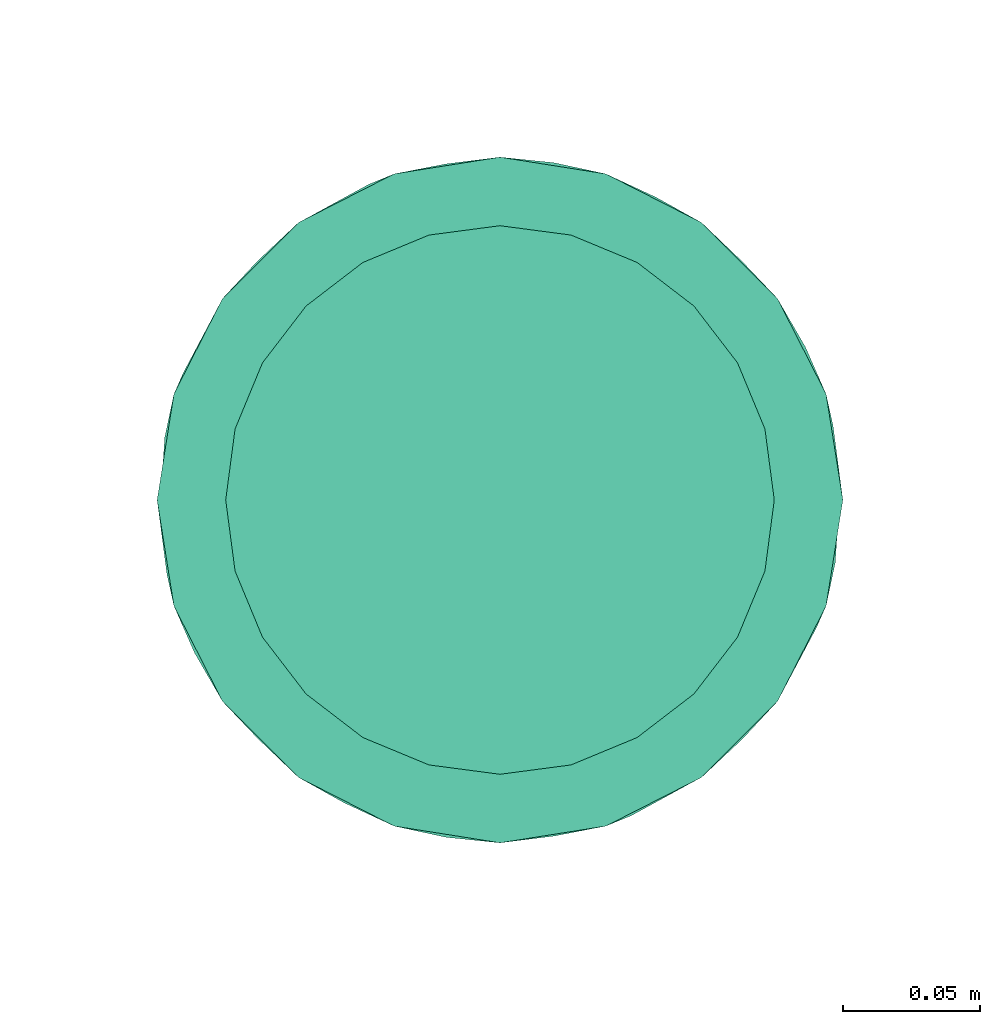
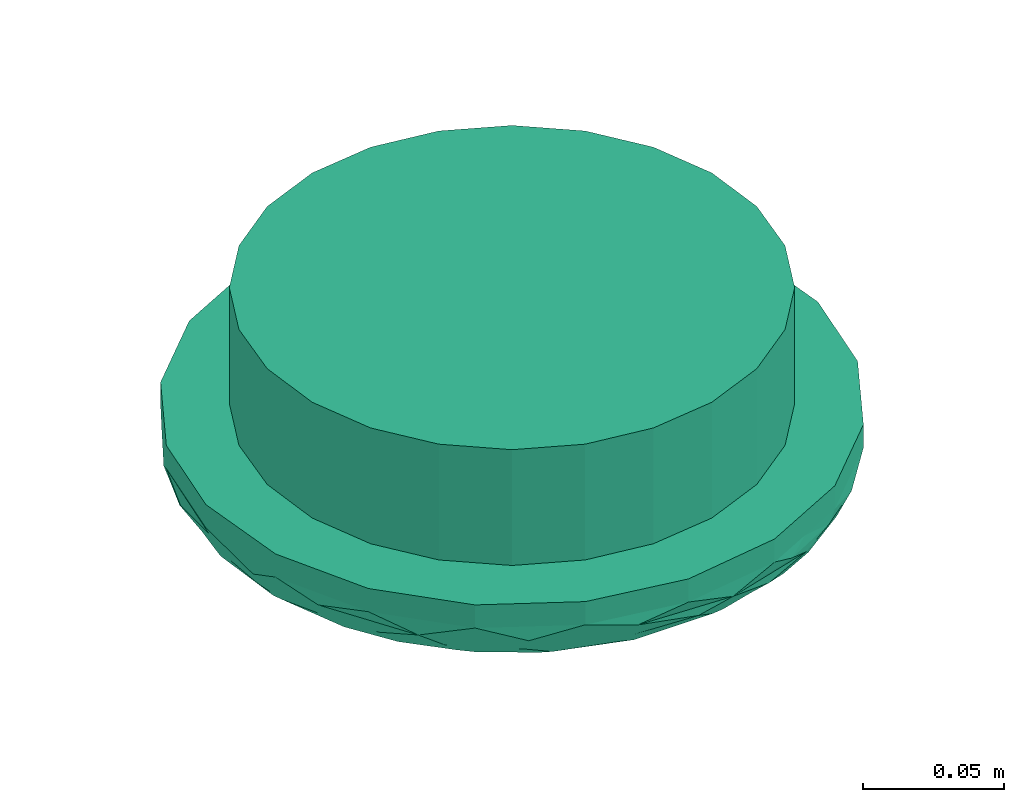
# One storey, part 10 of 11: 1 flow terminal.
"""IFC2X3 building model written with IfcOpenShell, lengths in millimetres."""

from ifc_helpers import new_model, entity, si_unit, converted_unit, derived_unit, direction, frame, origin, place, context, subcontext, project, spatial, faceted_brep, source, transform, mapped, type_object, type_shapes, element, save


model = new_model("IFC2X3")

# Units and contexts
model_context = context("Model", 3, precision=0.01, world=origin(), true_north=direction((6.12303176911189e-17, 1.0)))
body_context = subcontext(model_context, "Body", "Model", "MODEL_VIEW")
ifc_project = project(units=[si_unit("LENGTHUNIT", "METRE", prefix="MILLI"), si_unit("AREAUNIT", "SQUARE_METRE"), si_unit("VOLUMEUNIT", "CUBIC_METRE"), converted_unit("PLANEANGLEUNIT", "DEGREE", entity("IfcRatioMeasure", 0.0174532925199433), si_unit("PLANEANGLEUNIT", "RADIAN"), dimensions=[0, 0, 0, 0, 0, 0, 0]), si_unit("MASSUNIT", "GRAM", prefix="KILO"), si_unit("TIMEUNIT", "SECOND"), si_unit("FREQUENCYUNIT", "HERTZ"), si_unit("THERMODYNAMICTEMPERATUREUNIT", "KELVIN"), derived_unit("THERMALTRANSMITTANCEUNIT", [(si_unit("MASSUNIT", "GRAM", prefix="KILO"), 1), (si_unit("THERMODYNAMICTEMPERATUREUNIT", "KELVIN"), -1), (si_unit("TIMEUNIT", "SECOND"), -3)]), derived_unit("VOLUMETRICFLOWRATEUNIT", [(si_unit("LENGTHUNIT", "METRE"), 3), (si_unit("TIMEUNIT", "SECOND"), -1)]), si_unit("ELECTRICCURRENTUNIT", "AMPERE"), si_unit("ELECTRICVOLTAGEUNIT", "VOLT"), si_unit("POWERUNIT", "WATT")], contexts=[model_context])

# Site, building, storey
site_placement = place(None, origin())
site = spatial("IfcSite", under=ifc_project, at=site_placement, Name="Surface:5707", CompositionType="ELEMENT")
building_placement = place(site_placement, origin())
building = spatial("IfcBuilding", under=site, at=building_placement, CompositionType="ELEMENT")
storey_placement = place(building_placement, origin())
storey = spatial("IfcBuildingStorey", under=building, at=storey_placement, Name="00_begane grond", CompositionType="ELEMENT", Elevation=0.0)

# Flow terminal
air_terminal_type = type_object("IfcAirTerminalType", Name="afvoer_rozet_kanaaldiameter_200 : 57_AT_afv_rozet_FB:afvoer_rozet_kanaaldiameter_200", PredefinedType="NOTDEFINED")
shared_shape = source(origin(), body_context, "Body", "Brep", [
    faceted_brep([(125.881904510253, 3.40741737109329, 50.0), (150.0, 13.3974596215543, 50.0), (170.710678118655, 29.289321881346, 50.0), (186.602540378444, 50.0, 50.0), (196.592582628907, 74.1180954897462, 50.0), (200.0, 100.0, 50.0), (196.592582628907, 125.881904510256, 50.0), (186.602540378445, 150.0, 50.0), (170.710678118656, 170.710678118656, 50.0), (150.0, 186.602540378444, 50.0), (125.881904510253, 196.592582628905, 50.0), (100.0, 200.0, 50.0), (74.1180954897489, 196.592582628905, 50.0), (50.0, 186.602540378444, 50.0), (29.289321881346, 170.710678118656, 50.0), (13.3974596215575, 150.0, 50.0), (3.40741737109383, 125.881904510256, 50.0), (0.0, 100.0, 50.0), (3.40741737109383, 74.1180954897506, 50.0), (13.3974596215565, 50.0, 50.0), (29.289321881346, 29.289321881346, 50.0), (50.0, 13.3974596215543, 50.0), (74.1180954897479, 3.40741737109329, 50.0), (100.0, 0.0, 50.0)], [[[0, 1, 2, 3, 4, 5, 6, 7, 8, 9, 10, 11, 12, 13, 14, 15, 16, 17, 18, 19, 20, 21, 22, 23]]]),
    faceted_brep([(125.881904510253, 196.592582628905, 0.0), (150.0, 186.602540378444, 0.0), (170.710678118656, 170.710678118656, 0.0), (186.602540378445, 150.0, 0.0), (196.592582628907, 125.881904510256, 0.0), (200.0, 100.0, 0.0), (196.592582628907, 74.1180954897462, 0.0), (186.602540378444, 50.0, 0.0), (170.710678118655, 29.289321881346, 0.0), (150.0, 13.3974596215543, 0.0), (125.881904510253, 3.40741737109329, 0.0), (100.0, 0.0, 0.0), (74.1180954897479, 3.40741737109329, 0.0), (50.0, 13.3974596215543, 0.0), (29.289321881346, 29.289321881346, 0.0), (13.3974596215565, 50.0, 0.0), (3.40741737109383, 74.1180954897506, 0.0), (0.0, 100.0, 0.0), (3.40741737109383, 125.881904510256, 0.0), (13.3974596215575, 150.0, 0.0), (29.289321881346, 170.710678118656, 0.0), (50.0, 186.602540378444, 0.0), (74.1180954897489, 196.592582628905, 0.0), (100.0, 200.0, 0.0)], [[[0, 1, 2, 3, 4, 5, 6, 7, 8, 9, 10, 11, 12, 13, 14, 15, 16, 17, 18, 19, 20, 21, 22, 23]]]),
    faceted_brep([(3.40741737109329, 74.1180954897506, 0.0), (3.40741737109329, 74.1180954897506, 50.0), (0.0, 100.0, 50.0), (0.0, 100.0, 0.0)], [[[0, 1, 2, 3]]]),
    faceted_brep([(13.397459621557, 50.0, 0.0), (13.397459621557, 50.0, 50.0), (3.40741737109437, 74.1180954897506, 50.0), (3.40741737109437, 74.1180954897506, 0.0)], [[[0, 1, 2, 3]]]),
    faceted_brep([(50.0, 13.3974596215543, 50.0), (29.289321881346, 29.289321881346, 50.0), (29.289321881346, 29.289321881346, 0.0), (50.0, 13.3974596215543, 0.0)], [[[0, 1, 2, 3]]]),
    faceted_brep([(13.3974596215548, 50.0, 0.0), (29.2893218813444, 29.289321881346, 0.0), (29.2893218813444, 29.289321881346, 50.0), (13.3974596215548, 50.0, 50.0)], [[[0, 1, 2, 3]]]),
    faceted_brep([(74.1180954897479, 3.40741737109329, 50.0), (50.0, 13.3974596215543, 50.0), (50.0, 13.3974596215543, 0.0), (74.1180954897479, 3.40741737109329, 0.0)], [[[0, 1, 2, 3]]]),
    faceted_brep([(100.0, 0.0, 50.0), (74.1180954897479, 3.40741737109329, 50.0), (74.1180954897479, 3.40741737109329, 0.0), (100.0, 0.0, 0.0)], [[[0, 1, 2, 3]]]),
    faceted_brep([(125.881904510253, 3.40741737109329, 0.0), (125.881904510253, 3.40741737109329, 50.0), (100.0, 0.0, 50.0), (100.0, 0.0, 0.0)], [[[0, 1, 2, 3]]]),
    faceted_brep([(150.0, 13.3974596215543, 0.0), (150.0, 13.3974596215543, 50.0), (125.881904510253, 3.40741737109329, 50.0), (125.881904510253, 3.40741737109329, 0.0)], [[[0, 1, 2, 3]]]),
    faceted_brep([(196.592582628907, 74.1180954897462, 0.0), (200.0, 100.0, 0.0), (200.0, 100.0, 50.0), (196.592582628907, 74.1180954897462, 50.0)], [[[0, 1, 2, 3]]]),
    faceted_brep([(170.710678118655, 29.289321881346, 0.0), (170.710678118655, 29.289321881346, 50.0), (150.0, 13.3974596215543, 50.0), (150.0, 13.3974596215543, 0.0)], [[[0, 1, 2, 3]]]),
    faceted_brep([(186.602540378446, 50.0, 0.0), (186.602540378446, 50.0, 50.0), (170.710678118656, 29.289321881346, 50.0), (170.710678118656, 29.289321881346, 0.0)], [[[0, 1, 2, 3]]]),
    faceted_brep([(186.602540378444, 50.0, 50.0), (186.602540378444, 50.0, 0.0), (196.592582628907, 74.1180954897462, 0.0), (196.592582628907, 74.1180954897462, 50.0)], [[[0, 1, 2, 3]]]),
    faceted_brep([(196.592582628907, 125.881904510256, 0.0), (196.592582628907, 125.881904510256, 50.0), (200.0, 100.0, 50.0), (200.0, 100.0, 0.0)], [[[0, 1, 2, 3]]]),
    faceted_brep([(186.602540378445, 150.0, 0.0), (186.602540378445, 150.0, 50.0), (196.592582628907, 125.881904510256, 50.0), (196.592582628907, 125.881904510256, 0.0)], [[[0, 1, 2, 3]]]),
    faceted_brep([(150.0, 186.602540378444, 50.0), (170.710678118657, 170.710678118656, 50.0), (170.710678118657, 170.710678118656, 0.0), (150.0, 186.602540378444, 0.0)], [[[0, 1, 2, 3]]]),
    faceted_brep([(186.602540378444, 150.0, 0.0), (170.710678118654, 170.710678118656, 0.0), (170.710678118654, 170.710678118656, 50.0), (186.602540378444, 150.0, 50.0)], [[[0, 1, 2, 3]]]),
    faceted_brep([(125.881904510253, 196.592582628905, 50.0), (150.0, 186.602540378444, 50.0), (150.0, 186.602540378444, 0.0), (125.881904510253, 196.592582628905, 0.0)], [[[0, 1, 2, 3]]]),
    faceted_brep([(100.0, 200.0, 50.0), (125.881904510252, 196.592582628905, 50.0), (125.881904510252, 196.592582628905, 0.0), (100.0, 200.0, 0.0)], [[[0, 1, 2, 3]]]),
    faceted_brep([(50.0, 186.602540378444, 50.0), (50.0, 186.602540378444, 0.0), (29.2893218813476, 170.710678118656, 0.0), (29.2893218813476, 170.710678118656, 50.0)], [[[0, 1, 2, 3]]]),
    faceted_brep([(13.3974596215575, 150.0, 50.0), (13.3974596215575, 150.0, 0.0), (3.40741737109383, 125.881904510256, 0.0), (3.40741737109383, 125.881904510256, 50.0)], [[[0, 1, 2, 3]]]),
    faceted_brep([(29.2893218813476, 170.710678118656, 0.0), (13.3974596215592, 150.0, 0.0), (13.3974596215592, 150.0, 50.0), (29.2893218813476, 170.710678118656, 50.0)], [[[0, 1, 2, 3]]]),
    faceted_brep([(3.40741737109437, 125.881904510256, 50.0), (3.40741737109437, 125.881904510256, 0.0), (0.0, 100.0, 0.0), (0.0, 100.0, 50.0)], [[[0, 1, 2, 3]]]),
    faceted_brep([(74.1180954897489, 196.592582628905, 50.0), (74.1180954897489, 196.592582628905, 0.0), (50.0, 186.602540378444, 0.0), (50.0, 186.602540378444, 50.0)], [[[0, 1, 2, 3]]]),
    faceted_brep([(74.1180954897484, 196.592582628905, 0.0), (74.1180954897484, 196.592582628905, 50.0), (100.0, 200.0, 50.0), (100.0, 200.0, 0.0)], [[[0, 1, 2, 3]]]),
    faceted_brep([(-24.9999742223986, 100.000733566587, 0.0), (99.9999540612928, 100.000733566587, 0.0), (-18.8820337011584, 138.626282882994, 0.0), (-18.8820337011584, 61.372858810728, 0.0), (-1.12701279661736, 26.5261486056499, 0.0), (26.5268225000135, -1.12797737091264, 0.0), (61.3729513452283, -18.882707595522, 0.0), (99.9999540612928, -25.0009387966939, 0.0), (138.627247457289, -18.882707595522, 0.0), (173.473085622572, -1.12797737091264, 0.0), (201.127211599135, 26.5261486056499, 0.0), (218.881941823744, 61.372858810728, 0.0), (224.999882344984, 100.000733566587, 0.0), (218.881941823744, 138.626282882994, 0.0), (201.127211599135, 173.472993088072, 0.0), (173.473085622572, 201.127119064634, 0.0), (138.627247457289, 218.881849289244, 0.0), (99.9999540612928, 225.000080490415, 0.0), (61.3729513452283, 218.881849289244, 0.0), (26.5268225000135, 201.127119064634, 0.0), (-1.12701279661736, 173.472993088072, 0.0), (0.139188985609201, 132.44759025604, -29.9999993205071), (99.9999540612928, 100.000733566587, -29.9999993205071), (-5.00003220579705, 100.000733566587, -29.9999993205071), (15.0531042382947, 161.717896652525, -29.9999993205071), (38.2825002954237, 184.94671134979, -29.9999993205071), (67.5530973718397, 199.862080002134, -29.9999993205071), (99.9999540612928, 204.998975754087, -29.9999993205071), (132.446810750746, 199.862080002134, -29.9999993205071), (161.717407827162, 184.94671134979, -29.9999993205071), (184.946803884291, 161.717896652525, -29.9999993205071), (199.861009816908, 132.44759025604, -29.9999993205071), (204.999940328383, 100.000733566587, -29.9999993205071), (199.861009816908, 67.5538768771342, -29.9999993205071), (184.946803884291, 38.2835704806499, -29.9999993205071), (161.717407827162, 15.0524303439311, -29.9999993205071), (132.446810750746, 0.139387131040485, -29.9999993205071), (99.9999540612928, -4.99983406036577, -29.9999993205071), (67.5530973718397, 0.139387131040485, -29.9999993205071), (38.2825002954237, 15.0524303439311, -29.9999993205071), (15.0531042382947, 38.2835704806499, -29.9999993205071), (0.139188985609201, 67.5538768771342, -29.9999993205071), (209.544430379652, 132.182490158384, -27.772046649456), (197.757940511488, 148.493122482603, -29.5701154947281), (196.246114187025, 159.736622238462, -28.2067902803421), (-12.8838533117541, 130.938380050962, -25.964907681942), (-7.49493805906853, 129.680317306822, -28.908332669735), (-12.0711122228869, 100.000733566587, -27.0710674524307), (61.3729513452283, 218.881849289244, -10.0000005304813), (99.9999540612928, 225.000080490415, -10.0000005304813), (80.3895231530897, 222.563019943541, -15.8626752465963), (219.842638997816, 126.808399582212, -19.1100390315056), (215.311229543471, 136.772907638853, -21.956617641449), (210.605702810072, 153.078889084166, -19.345457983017), (174.710219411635, 180.767896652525, -29.3591159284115), (147.688031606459, 200.9155040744, -28.8740051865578), (149.290259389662, 203.996711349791, -27.2708099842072), (168.729479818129, 192.053254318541, -27.3886806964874), (116.396918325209, 214.696058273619, -26.7928027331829), (83.6358366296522, 209.021986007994, -29.3007233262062), (79.5166113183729, 214.051911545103, -26.7842481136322), (206.564089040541, 123.287684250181, -29.5796034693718), (116.36523421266, 208.547596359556, -29.4220186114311), (222.070991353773, 100.000733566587, -17.0710680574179), (221.434983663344, 127.152564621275, -14.7255478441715), (223.535436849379, 100.000733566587, -13.5355337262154), (223.754028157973, 100.000733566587, -13.0081540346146), (224.999882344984, 100.000733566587, -10.0000005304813), (211.35304091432, 155.771747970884, -14.2702931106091), (-19.8581369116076, 127.557191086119, -18.7482662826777), (-15.3587022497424, 146.590913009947, -14.8145833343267), (-10.6057946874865, 153.078889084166, -19.345457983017), (29.7062795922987, 202.822364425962, -14.2010170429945), (43.9498869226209, 210.005646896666, -10.0000005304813), (52.0630544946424, 215.049525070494, -13.7903056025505), (173.473085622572, 201.127119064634, -10.0000005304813), (156.873808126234, 210.384693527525, -15.6821278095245), (138.627247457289, 218.881849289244, -10.0000005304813), (146.33636992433, 208.696424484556, -25.0593284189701), (176.024964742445, 191.627698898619, -24.2232784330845), (61.7996694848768, 215.805292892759, -20.6260143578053), (94.5761572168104, 222.702546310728, -19.0771036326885), (218.881941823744, 138.626282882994, -10.0000005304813), (201.127211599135, 173.472993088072, -10.0000005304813), (188.433218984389, 186.837293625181, -16.4220558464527), (43.1426687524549, 209.705665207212, -17.4432337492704), (19.7156103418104, 190.588227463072, -21.9391268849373), (11.5425627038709, 187.072163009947, -15.8626752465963), (119.603408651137, 222.988575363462, -14.2575383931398), (87.3079962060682, 219.972480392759, -22.4617966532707), (52.3766981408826, 197.227357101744, -29.7317471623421), (52.2851339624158, 201.759638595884, -28.5839633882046), (25.3178846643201, 180.467914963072, -29.4194183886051), (26.680882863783, 189.020881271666, -27.1276274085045), (26.5268225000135, 201.127119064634, -10.0000005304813), (-7.94084107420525, 100.000733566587, -28.7818278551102), (-5.13083817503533, 157.185615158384, -23.585926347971), (2.88059142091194, 163.199201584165, -26.7870867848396), (4.72902510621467, 155.678730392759, -29.271796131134), (-1.12701279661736, 173.472993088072, -10.0000005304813), (-16.3098069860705, 131.887159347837, -22.5138374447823), (-4.20502259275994, 167.289649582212, -16.111977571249), (207.941039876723, 100.000733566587, -28.7818278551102), (210.881848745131, 100.000733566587, -27.5636563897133), (-19.1421922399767, 100.000733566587, -24.1421355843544), (-15.6066522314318, 100.000733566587, -25.6066015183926), (-15.0119210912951, 100.000733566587, -25.8528959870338), (3.84361403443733, 175.79378166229, -19.7971609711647), (119.986524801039, 218.06794548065, -23.5107651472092), (202.89105742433, 159.352924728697, -24.492559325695), (191.658894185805, 177.88435173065, -22.9040275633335), (197.373080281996, 174.365961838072, -19.6422671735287), (156.794161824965, 207.689509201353, -20.9319640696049), (-10.8819406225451, 100.000733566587, -27.5636563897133), (-22.253630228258, 122.785389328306, -15.0227873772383), (56.1741407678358, 207.361622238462, -26.728185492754), (51.9334112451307, 208.956873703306, -24.1952437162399), (119.603990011, 221.116596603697, -19.3247515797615), (39.7731069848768, 205.361744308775, -21.5024029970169), (31.5041349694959, 197.332001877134, -24.2655700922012), (14.6008062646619, 181.695746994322, -25.0395917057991), (180.480216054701, 191.718391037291, -20.5002862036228), (190.027598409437, 175.226374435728, -25.7549527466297), (214.592378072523, 129.682642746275, -24.8706453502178), (215.012119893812, 100.000733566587, -25.8528959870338), (212.071020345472, 100.000733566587, -27.0710674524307), (-20.6066377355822, 100.000733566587, -20.6066023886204), (-23.7541200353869, 100.000733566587, -13.0081540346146), (-23.5355287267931, 100.000733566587, -13.5355337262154), (-22.0710832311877, 100.000733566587, -17.0710680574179), (-18.8820337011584, 138.626282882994, -10.0000005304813), (-24.9999742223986, 100.000733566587, -10.0000005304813), (220.606545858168, 100.000733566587, -20.6066023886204), (219.142100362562, 100.000733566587, -24.1421355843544), (215.606560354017, 100.000733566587, -25.6066015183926), (-9.54423157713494, 67.8189769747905, -27.772046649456), (2.24225829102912, 51.5083446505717, -29.5701154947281), (3.75379393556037, 40.2648448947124, -28.2067902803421), (212.88376143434, 69.0607616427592, -25.964907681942), (207.495136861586, 70.3188243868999, -28.908332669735), (138.627247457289, -18.882707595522, -10.0000005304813), (99.9999540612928, -25.0009387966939, -10.0000005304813), (119.610384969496, -22.5615528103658, -15.8626752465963), (-19.8427308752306, 73.1907421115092, -19.1100390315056), (-15.3113214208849, 63.2285594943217, -21.956617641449), (-10.6057946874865, 46.9225780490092, -19.345457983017), (25.289688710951, 19.2335704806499, -29.3591159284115), (52.3121671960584, -0.916362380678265, -28.8740051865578), (50.7096487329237, -3.99524421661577, -27.2708099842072), (31.2704283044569, 7.94588737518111, -27.3886806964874), (83.6029897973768, -14.696916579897, -26.7928027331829), (116.364071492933, -9.02051887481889, -29.3007233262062), (120.483587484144, -14.0504444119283, -26.7842481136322), (-6.56418091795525, 76.7114574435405, -29.5796034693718), (83.6346739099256, -8.54612922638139, -29.4220186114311), (-21.435075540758, 72.8465770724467, -14.7255478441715), (-11.3531327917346, 44.2297191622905, -14.2702931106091), (219.858335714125, 72.4442760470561, -18.7482662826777), (215.358610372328, 53.4082286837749, -14.8145833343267), (210.605702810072, 46.9225780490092, -19.345457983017), (138.200238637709, -15.8061511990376, -20.6260143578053), (105.424041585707, -22.7010791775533, -19.0771036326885), (26.5268225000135, -1.12797737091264, -10.0000005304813), (43.126390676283, -10.3855518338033, -15.6821278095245), (61.3729513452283, -18.882707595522, -10.0000005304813), (53.6635381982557, -8.69728279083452, -25.0593284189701), (23.9752340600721, 8.37144279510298, -24.2232784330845), (-18.8820337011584, 61.372858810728, -10.0000005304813), (-1.12701279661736, 26.5261486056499, -10.0000005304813), (147.623500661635, 2.77178459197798, -29.7317471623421), (156.857239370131, -9.70419807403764, -17.4432337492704), (180.284297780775, 9.41091423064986, -21.9391268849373), (188.457345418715, 12.929304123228, -15.8626752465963), (80.396499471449, -22.9894336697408, -14.2575383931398), (112.691911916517, -19.9733386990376, -22.4617966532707), (11.5666891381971, 13.1618480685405, -16.4220558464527), (174.682314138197, 19.5312267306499, -29.4194183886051), (173.319315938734, 10.9805858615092, -27.1276274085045), (147.715064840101, -1.76049690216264, -28.5839633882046), (173.473085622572, -1.12797737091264, -10.0000005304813), (156.050021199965, -10.0041797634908, -10.0000005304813), (170.293628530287, -2.82322273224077, -14.2010170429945), (205.131036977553, 42.8158519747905, -23.585926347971), (197.119316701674, 36.8022655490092, -26.7870867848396), (195.270883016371, 44.3227367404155, -29.271796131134), (147.936853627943, -15.050383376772, -13.7903056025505), (201.127211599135, 26.5261486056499, -10.0000005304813), (216.309715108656, 68.1143077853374, -22.5138374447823), (204.205221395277, 32.7094921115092, -16.111977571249), (196.156294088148, 24.2076854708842, -19.7971609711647), (80.0136740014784, -18.0664783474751, -23.5107651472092), (-2.89114930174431, 40.6462169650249, -24.492559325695), (8.34101393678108, 22.1147899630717, -22.9040275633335), (2.62682784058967, 25.635505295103, -19.6422671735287), (43.2057462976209, -7.69036750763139, -20.9319640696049), (222.253829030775, 77.2137523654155, -15.0227873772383), (143.82576735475, -7.36248054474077, -26.728185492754), (148.066787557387, -8.95773200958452, -24.1952437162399), (80.3962087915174, -21.1174549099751, -19.3247515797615), (160.22709181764, -5.36260261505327, -21.5024029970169), (168.496063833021, 2.66713981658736, -24.2655700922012), (185.399101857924, 18.3033946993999, -25.0395917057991), (19.5196920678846, 8.28075065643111, -20.5002862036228), (9.9726003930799, 24.7727672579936, -25.7549527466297), (-14.5924699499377, 70.3188243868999, -24.8706453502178), (218.881941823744, 61.372858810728, -10.0000005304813)], [[[0, 1, 2]], [[0, 3, 1]], [[1, 3, 4]], [[1, 4, 5]], [[1, 5, 6]], [[6, 7, 1]], [[8, 1, 7]], [[1, 8, 9]], [[1, 9, 10]], [[11, 1, 10]], [[1, 11, 12]], [[1, 12, 13]], [[1, 13, 14]], [[14, 15, 1]], [[1, 15, 16]], [[16, 17, 1]], [[1, 17, 18]], [[19, 1, 18]], [[1, 19, 20]], [[2, 1, 20]], [[21, 22, 23]], [[24, 22, 21]], [[24, 25, 22]], [[26, 22, 25]], [[26, 27, 22]], [[22, 27, 28]], [[28, 29, 22]], [[22, 29, 30]], [[30, 31, 22]], [[31, 32, 22]], [[32, 33, 22]], [[34, 22, 33]], [[34, 35, 22]], [[35, 36, 22]], [[37, 22, 36]], [[22, 37, 38]], [[38, 39, 22]], [[39, 40, 22]], [[40, 41, 22]], [[22, 41, 23]], [[42, 43, 44]], [[45, 46, 47]], [[48, 49, 50]], [[51, 52, 53]], [[29, 54, 30]], [[55, 56, 57]], [[58, 59, 60]], [[31, 61, 32]], [[57, 44, 54]], [[27, 62, 28]], [[55, 54, 29]], [[63, 64, 65]], [[66, 65, 64]], [[67, 66, 64]], [[68, 64, 51]], [[69, 70, 71]], [[72, 73, 74]], [[75, 76, 77]], [[78, 79, 57]], [[80, 50, 81]], [[82, 68, 83]], [[68, 84, 83]], [[28, 55, 29]], [[85, 86, 87]], [[77, 88, 49]], [[58, 60, 89]], [[76, 75, 84]], [[25, 90, 26]], [[91, 92, 93]], [[94, 73, 72]], [[83, 84, 75]], [[21, 23, 95]], [[45, 96, 97]], [[21, 98, 24]], [[25, 24, 92]], [[73, 48, 74]], [[94, 87, 99]], [[59, 26, 90]], [[71, 100, 69]], [[101, 99, 87]], [[32, 61, 102]], [[103, 102, 61]], [[104, 45, 105]], [[106, 105, 45]], [[47, 106, 45]], [[71, 101, 107]], [[62, 27, 59]], [[89, 108, 58]], [[26, 59, 27]], [[92, 24, 98]], [[103, 61, 42]], [[109, 110, 111]], [[68, 51, 53]], [[79, 78, 112]], [[46, 95, 113]], [[113, 47, 46]], [[114, 70, 69]], [[93, 92, 98]], [[91, 60, 59]], [[55, 62, 58]], [[55, 57, 54]], [[43, 54, 44]], [[91, 115, 60]], [[89, 60, 116]], [[88, 50, 49]], [[89, 81, 117]], [[118, 85, 80]], [[70, 101, 71]], [[89, 116, 80]], [[89, 117, 108]], [[119, 93, 120]], [[86, 120, 96]], [[46, 98, 21]], [[95, 46, 21]], [[97, 98, 46]], [[96, 100, 71]], [[97, 46, 45]], [[112, 121, 79]], [[88, 76, 117]], [[93, 98, 97]], [[91, 90, 92]], [[58, 62, 59]], [[55, 28, 62]], [[97, 120, 93]], [[93, 119, 115]], [[56, 58, 78]], [[57, 79, 122]], [[58, 108, 78]], [[112, 117, 76]], [[112, 78, 108]], [[84, 121, 76]], [[43, 61, 31]], [[61, 43, 42]], [[42, 44, 109]], [[42, 123, 124]], [[79, 110, 122]], [[110, 79, 121]], [[31, 30, 43]], [[54, 43, 30]], [[123, 42, 109]], [[103, 42, 125]], [[124, 125, 42]], [[112, 108, 117]], [[100, 96, 45]], [[107, 96, 71]], [[100, 45, 104]], [[100, 126, 69]], [[76, 121, 112]], [[127, 114, 128]], [[129, 128, 114]], [[114, 130, 70]], [[99, 70, 130]], [[126, 100, 104]], [[131, 130, 127]], [[126, 129, 69]], [[121, 84, 111]], [[68, 111, 84]], [[53, 109, 111]], [[111, 110, 121]], [[109, 122, 110]], [[109, 44, 122]], [[57, 122, 44]], [[99, 101, 70]], [[107, 87, 86]], [[87, 107, 101]], [[96, 107, 86]], [[64, 68, 82]], [[111, 68, 53]], [[64, 63, 51]], [[51, 63, 132]], [[52, 132, 133]], [[76, 88, 77]], [[52, 133, 123]], [[88, 117, 81]], [[129, 114, 69]], [[130, 114, 127]], [[92, 90, 25]], [[59, 90, 91]], [[85, 74, 50]], [[50, 74, 48]], [[74, 85, 72]], [[85, 87, 72]], [[87, 94, 72]], [[93, 115, 91]], [[116, 60, 115]], [[118, 80, 116]], [[50, 80, 85]], [[119, 118, 116]], [[85, 118, 86]], [[80, 81, 89]], [[88, 81, 50]], [[96, 120, 97]], [[119, 120, 86]], [[118, 119, 86]], [[119, 116, 115]], [[58, 56, 55]], [[78, 57, 56]], [[109, 53, 52]], [[124, 123, 134]], [[133, 134, 123]], [[132, 52, 51]], [[109, 52, 123]], [[67, 64, 82]], [[135, 136, 137]], [[138, 139, 125]], [[140, 141, 142]], [[143, 144, 145]], [[39, 146, 40]], [[147, 148, 149]], [[150, 151, 152]], [[41, 153, 23]], [[149, 137, 146]], [[37, 154, 38]], [[147, 146, 39]], [[129, 155, 128]], [[127, 128, 155]], [[131, 127, 155]], [[156, 155, 143]], [[157, 158, 159]], [[160, 142, 161]], [[162, 163, 164]], [[165, 166, 149]], [[133, 138, 134]], [[124, 134, 138]], [[125, 124, 138]], [[167, 156, 168]], [[151, 36, 169]], [[38, 147, 39]], [[170, 171, 172]], [[164, 173, 141]], [[150, 152, 174]], [[163, 162, 175]], [[35, 169, 36]], [[176, 177, 178]], [[179, 180, 181]], [[168, 175, 162]], [[33, 32, 102]], [[138, 182, 183]], [[33, 184, 34]], [[154, 37, 151]], [[140, 185, 180]], [[179, 172, 186]], [[156, 175, 168]], [[159, 187, 157]], [[188, 186, 172]], [[23, 153, 95]], [[113, 95, 153]], [[181, 180, 185]], [[159, 188, 189]], [[35, 34, 176]], [[174, 190, 150]], [[36, 151, 37]], [[176, 34, 184]], [[113, 153, 135]], [[191, 192, 193]], [[156, 143, 145]], [[166, 165, 194]], [[139, 102, 103]], [[103, 125, 139]], [[195, 158, 157]], [[177, 176, 184]], [[178, 152, 151]], [[147, 154, 150]], [[147, 149, 146]], [[136, 146, 137]], [[178, 196, 152]], [[174, 152, 197]], [[173, 142, 141]], [[174, 161, 198]], [[199, 170, 160]], [[158, 188, 159]], [[174, 197, 160]], [[174, 198, 190]], [[200, 177, 201]], [[171, 201, 182]], [[139, 184, 33]], [[102, 139, 33]], [[183, 184, 139]], [[182, 187, 159]], [[183, 139, 138]], [[194, 202, 166]], [[173, 163, 198]], [[177, 184, 183]], [[178, 169, 176]], [[150, 154, 151]], [[147, 38, 154]], [[183, 201, 177]], [[177, 200, 196]], [[148, 150, 165]], [[149, 166, 203]], [[150, 190, 165]], [[194, 198, 163]], [[194, 165, 190]], [[175, 202, 163]], [[136, 153, 41]], [[153, 136, 135]], [[135, 137, 191]], [[135, 204, 106]], [[166, 192, 203]], [[192, 166, 202]], [[41, 40, 136]], [[146, 136, 40]], [[204, 135, 191]], [[113, 135, 47]], [[106, 47, 135]], [[194, 190, 198]], [[187, 182, 138]], [[189, 182, 159]], [[187, 138, 133]], [[187, 132, 157]], [[163, 202, 194]], [[66, 195, 65]], [[63, 65, 195]], [[195, 205, 158]], [[186, 158, 205]], [[132, 187, 133]], [[67, 205, 66]], [[132, 63, 157]], [[202, 175, 193]], [[156, 193, 175]], [[145, 191, 193]], [[193, 192, 202]], [[191, 203, 192]], [[191, 137, 203]], [[149, 203, 137]], [[186, 188, 158]], [[189, 172, 171]], [[172, 189, 188]], [[182, 189, 171]], [[155, 156, 167]], [[193, 156, 145]], [[155, 129, 143]], [[143, 129, 126]], [[144, 126, 104]], [[163, 173, 164]], [[144, 104, 204]], [[173, 198, 161]], [[63, 195, 157]], [[205, 195, 66]], [[176, 169, 35]], [[151, 169, 178]], [[185, 170, 181]], [[185, 140, 142]], [[142, 170, 185]], [[170, 172, 181]], [[172, 179, 181]], [[177, 196, 178]], [[197, 152, 196]], [[199, 160, 197]], [[142, 160, 170]], [[200, 199, 197]], [[170, 199, 171]], [[160, 161, 174]], [[173, 161, 142]], [[182, 201, 183]], [[200, 201, 171]], [[199, 200, 171]], [[200, 197, 196]], [[150, 148, 147]], [[165, 149, 148]], [[191, 145, 144]], [[106, 204, 105]], [[104, 105, 204]], [[126, 144, 143]], [[191, 144, 204]], [[131, 155, 167]], [[12, 67, 13]], [[82, 13, 67]], [[15, 75, 16]], [[77, 16, 75]], [[14, 83, 75]], [[75, 15, 14]], [[13, 82, 14]], [[83, 14, 82]], [[17, 16, 49]], [[77, 49, 16]], [[19, 18, 73]], [[48, 73, 18]], [[73, 94, 19]], [[2, 130, 131]], [[131, 0, 2]], [[20, 99, 130]], [[130, 2, 20]], [[19, 94, 99]], [[99, 20, 19]], [[48, 18, 49]], [[17, 49, 18]], [[0, 131, 3]], [[167, 3, 131]], [[5, 162, 164]], [[164, 6, 5]], [[4, 168, 162]], [[162, 5, 4]], [[3, 167, 168]], [[168, 4, 3]], [[7, 6, 141]], [[164, 141, 6]], [[9, 8, 180]], [[140, 180, 8]], [[180, 179, 9]], [[11, 205, 12]], [[67, 12, 205]], [[10, 186, 11]], [[205, 11, 186]], [[9, 179, 186]], [[186, 10, 9]], [[140, 8, 141]], [[7, 141, 8]]]),
])
type_shapes(air_terminal_type, [shared_shape])
flow_terminal_placement = place(storey_placement, frame((4401.35842759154, -31470.8951915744, 0.0)))
element("IfcFlowTerminal", 1, at=flow_terminal_placement, inside=storey, type_object=air_terminal_type, Name="57_AT_afv_rozet_FB:afvoer_rozet_kanaaldiameter_200:afvoer_rozet_kanaaldiameter_200 : 57_AT_afv_rozet_FB:afvoer_rozet_kanaaldiameter_200:2156", ObjectType="afvoer_rozet_kanaaldiameter_200 : 57_AT_afv_rozet_FB:afvoer_rozet_kanaaldiameter_200", context=body_context, shape_type="MappedRepresentation", body=[
    mapped(shared_shape, transform((0.0, 0.0, 0.0), scale=1.0)),
])

save(model, "model.ifc")
